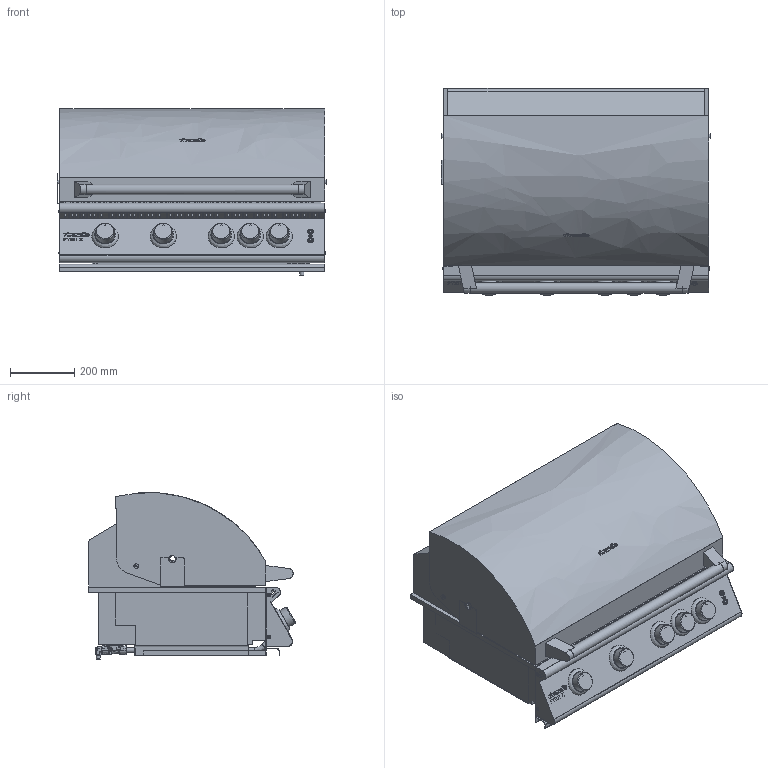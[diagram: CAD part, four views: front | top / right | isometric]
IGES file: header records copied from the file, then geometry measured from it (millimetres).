
Global section: file name: GX1-4BI.0_MOCKUP; native system: unknown; preprocessor: unknown; author: unknown; organization: unknown; date: 20260311.161822; units: millimetre
Bounding box: 835.5 x 642.44 x 517.94 mm (x, y, z)
Volume: 42037618.9 mm3; surface area: 6213950.7 mm2
Topology: 92 solids, 92 shells, 2517 faces, 6610 edges, 4375 vertices
Faces by surface type: bspline 2517
